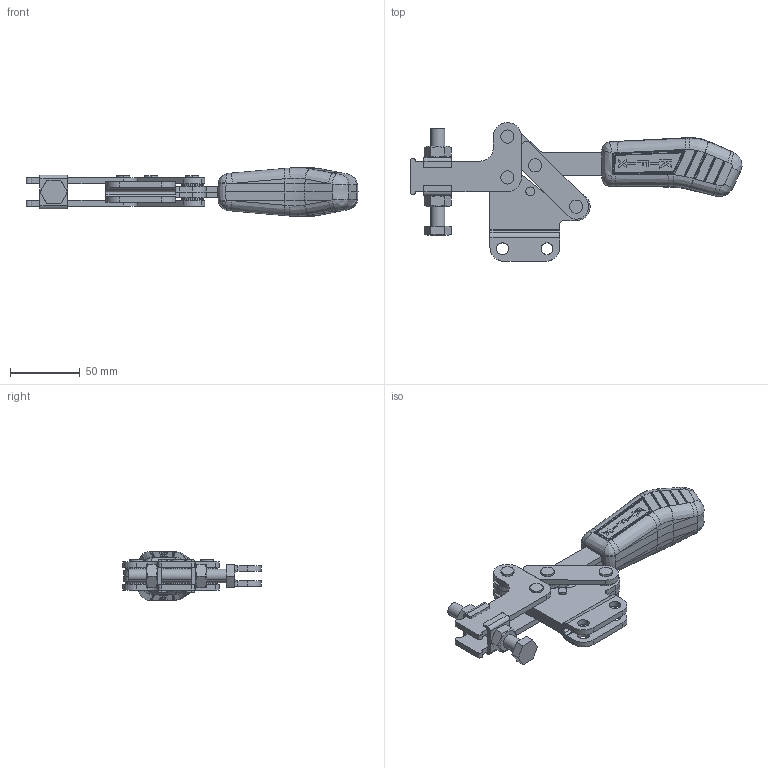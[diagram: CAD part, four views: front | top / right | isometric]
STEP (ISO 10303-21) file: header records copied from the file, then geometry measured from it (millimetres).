
FILE_DESCRIPTION (( 'STEP AP203' ), '1' );
FILE_NAME ('KF-531 R.STEP', '2014-08-18T14:43:04', ( 'Ricardo' ), ( '' ), 'SwSTEP 2.0', 'SolidWorks 2013', '' );
FILE_SCHEMA (( 'CONFIG_CONTROL_DESIGN' ));
Length unit declared in the file: millimetre
Products named in the file (13): KF-531 R; 08.10008; 06.50026; 07.60002; 14.10003; 12.50021; 02.11034_Direita; 11.50003; 02.11034_Esquerda; 17.50002; 01.10043; 3670000087; 03.13018
Assembly tree (27 placements, depth 2):
  KF-531 R
    02.11034_Direita
    02.11034_Esquerda
    01.10043  x2
    03.13018  x2
    08.10008  x2
    06.50026  x4
    07.60002
    14.10003  x2
    12.50021
    11.50003  x2
    17.50002  x8
    3670000087
Bounding box: 238.69 x 99.69 x 35.03 mm (x, y, z)
Volume: 177380.4 mm3; surface area: 77252.7 mm2
Topology: 27 solids, 27 shells, 825 faces, 2002 edges, 1241 vertices
Faces by surface type: plane 287, cylinder 234, bspline 157, cone 92, sphere 52, torus 3
Entity records: 23836 total; most frequent: CARTESIAN_POINT 8901, ORIENTED_EDGE 2990, DIRECTION 2366, EDGE_CURVE 1495, VERTEX_POINT 940, AXIS2_PLACEMENT_3D 898, EDGE_LOOP 667, ADVANCED_FACE 603
